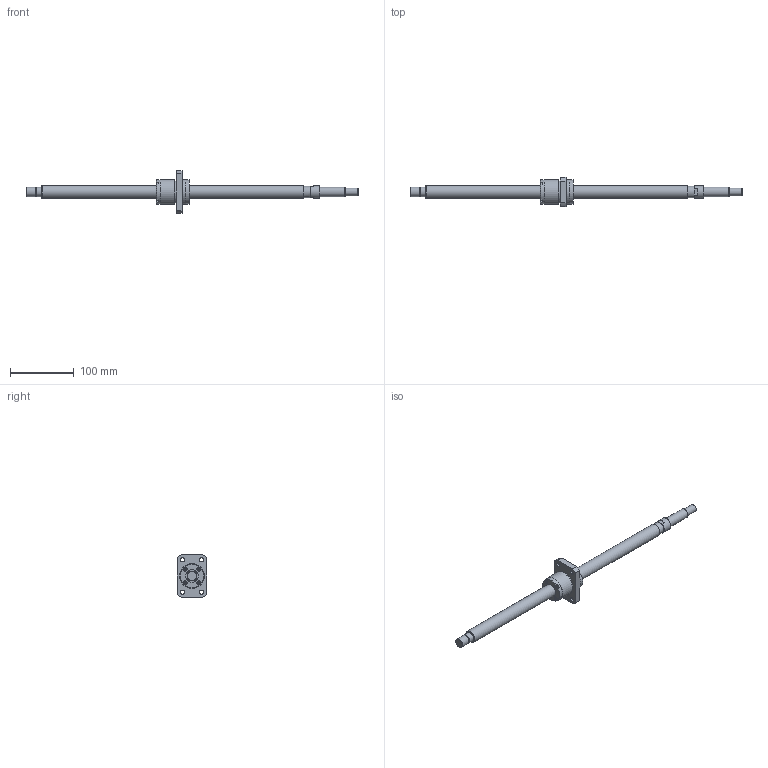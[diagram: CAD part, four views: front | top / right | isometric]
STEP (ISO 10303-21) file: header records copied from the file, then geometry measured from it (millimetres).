
FILE_DESCRIPTION(/* description */ ('STEP AP203'),/* implementation_level */ '2;1');
FILE_NAME(/* name */ 'BNK2020-3.6G0+520LC5Y(2310)',/* time_stamp */ '2024-07-09T09:39:59+02:00',/* author */ ('License CC BY-ND 4.0'),/* organization */ ('CADENAS'),/* preprocessor_version */ 'ST-DEVELOPER v19.3',/* originating_system */ 'PARTsolutions',/* authorisation */ ' ');
FILE_SCHEMA (('CONFIG_CONTROL_DESIGN'));
Length unit declared in the file: millimetre
Products named in the file (3): BNK2020-3.6G0+520LC5Y(2310); BNK 2020-3.6G0+520LC5Y Shaft; BNK 2020-3.6G0+520LC5Y0 Nut
Assembly tree (2 placements, depth 2):
  BNK2020-3.6G0+520LC5Y(2310)
    BNK 2020-3.6G0+520LC5Y Shaft
    BNK 2020-3.6G0+520LC5Y0 Nut
Bounding box: 520 x 46 x 66 mm (x, y, z)
Volume: 208387.3 mm3; surface area: 49365.1 mm2
Topology: 2 solids, 2 shells, 136 faces, 309 edges, 199 vertices
Faces by surface type: plane 75, cylinder 35, cone 20, torus 6
Full cylindrical faces by diameter (mm): 5.188 x1, 5.5 x4, 6.6 x4, 11 x4, 12 x1, 14.3 x1, 15 x3, 18 x1, 19.5 x1, 20 x2, 35.1 x1, 38 x2, 39 x2
Entity records: 3695 total; most frequent: CARTESIAN_POINT 671, DIRECTION 626, ORIENTED_EDGE 528, EDGE_CURVE 264, AXIS2_PLACEMENT_3D 247, FACE_BOUND 210, EDGE_LOOP 209, VERTEX_POINT 196
